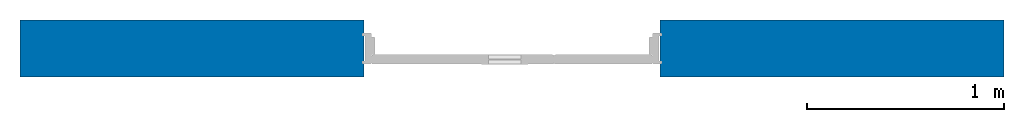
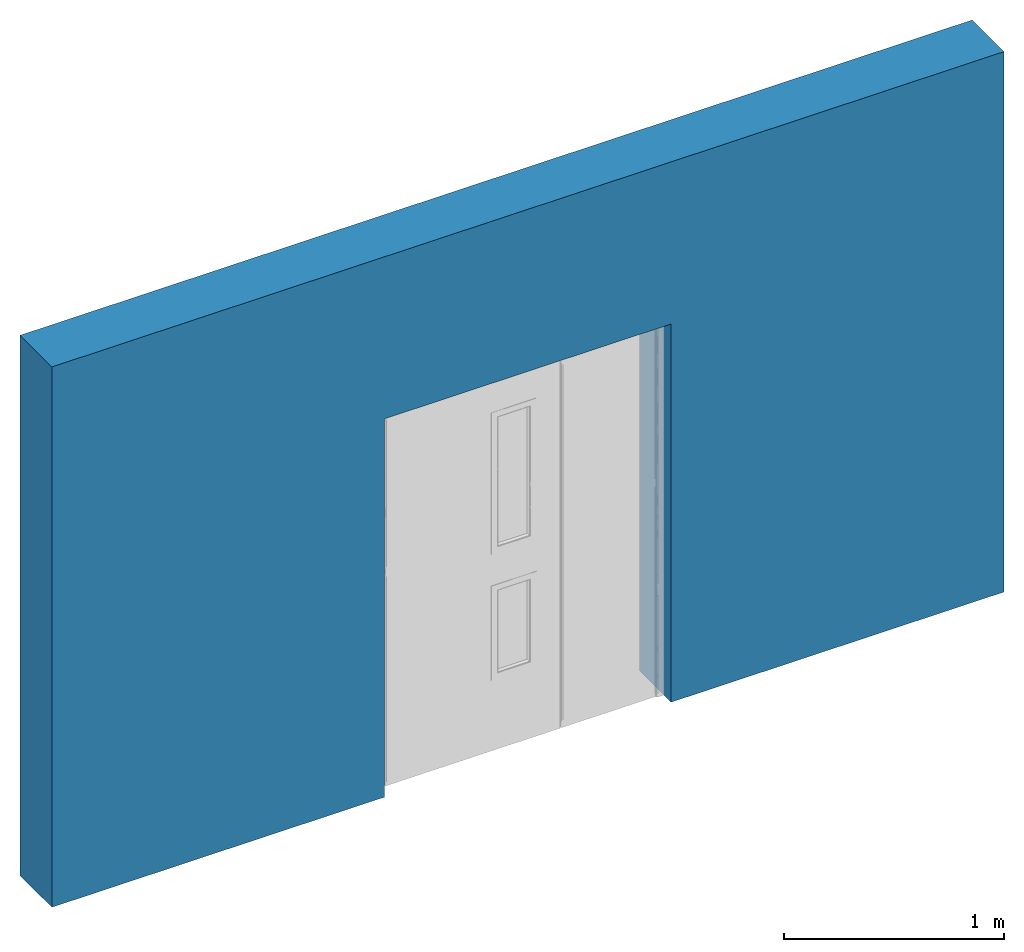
# One storey, incomplete: 1 wall, 1 opening.
"""IFC2X3 building model written with IfcOpenShell, lengths in millimetres."""

import ifcopenshell
import ifcopenshell.guid

model = None  # the IFC model being written
_history = None  # IfcOwnerHistory: only IFC2X3 demands one
_inside = {}  # id of a spatial element -> (the spatial element, [elements in it])
_under = {}  # id of a project, library or spatial element -> (it, [spatial elements below it])
_declared = {}  # id of a project -> (the project, [libraries it declares])
_typed = {}  # id of a type object -> (the type object, [elements of that type])
_made_of = {}  # id of a material, layer set ... -> (it, [elements and type objects made of it])


def new_model(schema):
    """Start an empty IFC model of exactly this schema.

    Asked for "IFC4X3", IfcOpenShell would pick the latest addendum, in which some entities
    have other attributes; the version numbers below select the first issue.
    IFC2X3 requires an IfcOwnerHistory on every rooted entity: one is made here for all.
    """
    global model, _history
    if schema == "IFC4X3":
        model = ifcopenshell.file(schema_version=(4, 3, 0, 0))
    else:
        model = ifcopenshell.file(schema=schema)
    _inside.clear()
    _under.clear()
    _declared.clear()
    _typed.clear()
    _made_of.clear()
    _history = None
    if model.schema == "IFC2X3":
        org = make("IfcOrganization", Name="unknown")
        user = make(
            "IfcPersonAndOrganization",
            ThePerson=make("IfcPerson", FamilyName="unknown"),
            TheOrganization=org,
        )
        app = make(
            "IfcApplication",
            ApplicationDeveloper=org,
            Version="unknown",
            ApplicationFullName="unknown",
            ApplicationIdentifier="unknown",
        )
        _history = make(
            "IfcOwnerHistory",
            OwningUser=user,
            OwningApplication=app,
            ChangeAction="ADDED",
            CreationDate=0,
        )
    return model


def make(cls, **values):
    """One entity of the class cls with the attributes given. An attribute that is None is left unset."""
    return model.create_entity(
        cls, **{name: value for name, value in values.items() if value is not None}
    )


def entity(cls, *values):
    """Any entity or typed value of the class cls, its attributes in the order of the schema. None: left unset."""
    e = model.create_entity(cls)
    for i, value in enumerate(values):
        if value is not None:
            e[i] = value
    return e


def rooted(cls, **values):
    """An entity with a GlobalId (a new one), such as an element, a storey or a relation."""
    return make(cls, GlobalId=ifcopenshell.guid.new(), OwnerHistory=_history, **values)


def si_unit(unit_type, name, prefix=None):
    """IfcSIUnit, for example si_unit("LENGTHUNIT", "METRE", prefix="MILLI")."""
    return make("IfcSIUnit", UnitType=unit_type, Prefix=prefix, Name=name)


def converted_unit(unit_type, name, factor, base, dimensions=None, offset=None):
    """IfcConversionBasedUnit, such as the inch: factor (a typed value) times the base unit."""
    return make(
        "IfcConversionBasedUnit"
        if offset is None
        else "IfcConversionBasedUnitWithOffset",
        ConversionOffset=offset,
        Dimensions=None
        if dimensions is None
        else entity("IfcDimensionalExponents", *dimensions),
        UnitType=unit_type,
        Name=name,
        ConversionFactor=make(
            "IfcMeasureWithUnit", ValueComponent=factor, UnitComponent=base
        ),
    )


def derived_unit(unit_type, elements):
    """IfcDerivedUnit: a product of units, each with its exponent."""
    return make(
        "IfcDerivedUnit",
        Elements=[
            make("IfcDerivedUnitElement", Unit=unit, Exponent=power)
            for unit, power in elements
        ],
        UnitType=unit_type,
    )


def assignment(units):
    """IfcUnitAssignment: the units of a project."""
    return None if units is None else make("IfcUnitAssignment", Units=units)


def point(xyz):
    """IfcCartesianPoint."""
    return None if xyz is None else make("IfcCartesianPoint", Coordinates=xyz)


def direction(xyz):
    """IfcDirection."""
    return None if xyz is None else make("IfcDirection", DirectionRatios=xyz)


def frame(location, z_axis=None, x_axis=None):
    """IfcAxis2Placement3D, a coordinate frame: its origin and axes. An axis left out is left unset."""
    return make(
        "IfcAxis2Placement3D",
        Location=point(location),
        Axis=direction(z_axis),
        RefDirection=direction(x_axis),
    )


def frame_2d(location, x_axis=None):
    """IfcAxis2Placement2D, a coordinate frame in the plane: its origin and x axis."""
    return make(
        "IfcAxis2Placement2D", Location=point(location), RefDirection=direction(x_axis)
    )


def origin():
    """The frame at (0, 0, 0) with its axes left unset."""
    return frame((0.0, 0.0, 0.0))


def place(relative_to, where):
    """IfcLocalPlacement: puts the frame where relative to a parent placement (None: the world)."""
    return make(
        "IfcLocalPlacement", PlacementRelTo=relative_to, RelativePlacement=where
    )


def context(
    kind, dimensions, precision=None, world=None, true_north=None, identifier=None
):
    """IfcGeometricRepresentationContext, for example the 3D "Model" context."""
    return make(
        "IfcGeometricRepresentationContext",
        ContextIdentifier=identifier,
        ContextType=kind,
        CoordinateSpaceDimension=dimensions,
        Precision=precision,
        WorldCoordinateSystem=world,
        TrueNorth=true_north,
    )


def subcontext(parent, identifier, kind, view, scale=None):
    """IfcGeometricRepresentationSubContext, for example "Body" below "Model"."""
    return make(
        "IfcGeometricRepresentationSubContext",
        ContextIdentifier=identifier,
        ContextType=kind,
        ParentContext=parent,
        TargetScale=scale,
        TargetView=view,
    )


def project(units=None, contexts=None):
    """IfcProject with its units and contexts."""
    return rooted(
        "IfcProject",
        Name="project",
        RepresentationContexts=contexts,
        UnitsInContext=assignment(units),
    )


def spatial(cls, under=None, at=None, **own):
    """A site, building, storey or space (cls), placed at a placement, below another one or the project."""
    s = rooted(cls, ObjectPlacement=at, **own)
    if under is not None:
        _under.setdefault(under.id(), (under, []))[1].append(s)
    return s


def profile(cls, at=None, kind="AREA", **sizes):
    """A parametric profile (cls). Its sizes go by their IFC names, for example OverallWidth=200.0."""
    return make(cls, ProfileType=kind, Position=at, **sizes)


def rectangle(**sizes):
    """IfcRectangleProfileDef."""
    return profile("IfcRectangleProfileDef", **sizes)


def extrude(swept, where, along, depth):
    """IfcExtrudedAreaSolid: the profile swept, set in the frame where, extruded along a direction by depth."""
    return make(
        "IfcExtrudedAreaSolid",
        SweptArea=swept,
        Position=where,
        ExtrudedDirection=direction(along),
        Depth=depth,
    )


def shape(context_of_items, identifier, shape_type, items):
    """IfcShapeRepresentation: the items that make up one representation, for example the "Body"."""
    return make(
        "IfcShapeRepresentation",
        ContextOfItems=context_of_items,
        RepresentationIdentifier=identifier,
        RepresentationType=shape_type,
        Items=items,
    )


def material(Name=None, Category=None):
    """IfcMaterial."""
    return make("IfcMaterial", Name=Name, Category=Category)


def layer(
    of_material, thickness, ventilated=None, Name=None, Category=None, Priority=None
):
    """IfcMaterialLayer: one layer of a wall or slab, of a material (None: an air gap)."""
    return make(
        "IfcMaterialLayer",
        Material=of_material,
        LayerThickness=thickness,
        IsVentilated=ventilated,
        Name=Name,
        Category=Category,
        Priority=Priority,
    )


def layer_set(layers, Name=None):
    """IfcMaterialLayerSet."""
    return make("IfcMaterialLayerSet", MaterialLayers=layers, LayerSetName=Name)


def layer_usage(for_layer_set, set_direction, sense, offset, extent=None):
    """IfcMaterialLayerSetUsage: how a layer set lies in its element."""
    return make(
        "IfcMaterialLayerSetUsage",
        ForLayerSet=for_layer_set,
        LayerSetDirection=set_direction,
        DirectionSense=sense,
        OffsetFromReferenceLine=offset,
        ReferenceExtent=extent,
    )


def made_of(thing, what):
    """Note that an element or type object is made of a material, layer set ...; save() writes the relation."""
    if what is not None:
        _made_of.setdefault(what.id(), (what, []))[1].append(thing)
    return thing


def type_object(cls, material=None, **own):
    """A type object (cls), such as IfcWallType, which elements share."""
    return made_of(rooted(cls, **own), material)


def element(
    cls,
    number,
    at=None,
    inside=None,
    cuts=None,
    type_object=None,
    material=None,
    context=None,
    identifier="Body",
    shape_type=None,
    held_by="IfcProductDefinitionShape",
    body=None,
    shapes=None,
    **own,
):
    """One element of the class cls, such as IfcWall. Its Tag is "e" and its number.

    at: its placement. inside: the storey or other place that contains it. cuts: it is an
    opening in that element (IfcRelVoidsElement). A single representation is given by context,
    identifier, shape_type and body (its items); several are given by shapes. held_by: the class
    of the entity that holds the representations. save() writes the other relations.
    """
    e = rooted(cls, Tag="e%d" % number, ObjectPlacement=at, **own)
    if body is not None:
        shapes = [shape(context, identifier, shape_type, body)]
    if shapes is not None:
        e.Representation = make(held_by, Representations=shapes)
    if inside is not None:
        _inside.setdefault(inside.id(), (inside, []))[1].append(e)
    if cuts is not None:
        rooted(
            "IfcRelVoidsElement", RelatingBuildingElement=cuts, RelatedOpeningElement=e
        )
    if type_object is not None:
        _typed.setdefault(type_object.id(), (type_object, []))[1].append(e)
    return made_of(e, material)


def aggregate(whole, parts):
    """IfcRelAggregates: a whole, such as a stair, and the parts it consists of."""
    return rooted("IfcRelAggregates", RelatingObject=whole, RelatedObjects=parts)


def save(model, path):
    """Write the relations noted so far, then the file.

    IfcRelAggregates (storeys below a building ...), IfcRelContainedInSpatialStructure (elements
    in a storey), IfcRelDefinesByType, IfcRelAssociatesMaterial and IfcRelDeclares: one each for
    every whole, place, type object, material and project.
    """
    for whole, parts in _under.values():
        aggregate(whole, parts)
    for where, things in _inside.values():
        rooted(
            "IfcRelContainedInSpatialStructure",
            RelatedElements=things,
            RelatingStructure=where,
        )
    for kind, things in _typed.values():
        rooted("IfcRelDefinesByType", RelatedObjects=things, RelatingType=kind)
    for what, things in _made_of.values():
        rooted("IfcRelAssociatesMaterial", RelatedObjects=things, RelatingMaterial=what)
    for by, libraries in _declared.values():
        rooted("IfcRelDeclares", RelatingContext=by, RelatedDefinitions=libraries)
    model.write(path)


model = new_model("IFC2X3")

# Units and contexts
model_context = context("Model", 3, precision=0.01, world=origin(), true_north=direction((6.12303176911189e-17, 1.0)))
body_context = subcontext(model_context, "Body", "Model", "MODEL_VIEW")
ifc_project = project(units=[si_unit("LENGTHUNIT", "METRE", prefix="MILLI"), si_unit("AREAUNIT", "SQUARE_METRE"), si_unit("VOLUMEUNIT", "CUBIC_METRE"), converted_unit("PLANEANGLEUNIT", "DEGREE", entity("IfcRatioMeasure", 0.0174532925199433), si_unit("PLANEANGLEUNIT", "RADIAN"), dimensions=[0, 0, 0, 0, 0, 0, 0]), si_unit("MASSUNIT", "GRAM", prefix="KILO"), si_unit("TIMEUNIT", "SECOND"), si_unit("FREQUENCYUNIT", "HERTZ"), si_unit("THERMODYNAMICTEMPERATUREUNIT", "DEGREE_CELSIUS"), derived_unit("THERMALTRANSMITTANCEUNIT", [(si_unit("MASSUNIT", "GRAM", prefix="KILO"), 1), (si_unit("THERMODYNAMICTEMPERATUREUNIT", "KELVIN"), -1), (si_unit("TIMEUNIT", "SECOND"), -3)]), derived_unit("VOLUMETRICFLOWRATEUNIT", [(si_unit("LENGTHUNIT", "METRE"), 3), (si_unit("TIMEUNIT", "SECOND"), -1)]), si_unit("ELECTRICCURRENTUNIT", "AMPERE"), si_unit("ELECTRICVOLTAGEUNIT", "VOLT"), si_unit("POWERUNIT", "WATT"), si_unit("FORCEUNIT", "NEWTON", prefix="KILO"), si_unit("ILLUMINANCEUNIT", "LUX"), si_unit("LUMINOUSFLUXUNIT", "LUMEN"), si_unit("LUMINOUSINTENSITYUNIT", "CANDELA"), si_unit("PRESSUREUNIT", "PASCAL")], contexts=[model_context])

# Site, building, storey
site_placement = place(None, origin())
site = spatial("IfcSite", under=ifc_project, at=site_placement, Name="Default", CompositionType="ELEMENT")
building_placement = place(site_placement, origin())
building = spatial("IfcBuilding", under=site, at=building_placement, CompositionType="ELEMENT")
storey_placement = place(building_placement, origin())
storey = spatial("IfcBuildingStorey", under=building, at=storey_placement, Name="Level 0", CompositionType="ELEMENT", Elevation=0.0)

# Wall, opening
ifc_material_1 = material(Name="Brick, Common")
ifc_layer_1 = layer(ifc_material_1, 102.5)
ifc_material_2 = material(Name="Fiberglass Batt")
ifc_layer_2 = layer(ifc_material_2, 75.0)
ifc_material_3 = material(Name="Concrete Masonry Units")
ifc_layer_3 = layer(ifc_material_3, 100.0)
ifc_material_4 = material(Name="Gypsum Wall Board")
ifc_layer_4 = layer(ifc_material_4, 12.5)
ifc_layer_set = layer_set([ifc_layer_1, ifc_layer_2, ifc_layer_3, ifc_layer_4], Name="Basic Wall:Cav - 102 75i 100 p - Lwt")
ifc_layer_usage = layer_usage(ifc_layer_set, "AXIS2", "POSITIVE", -145.0)
wall_type = type_object("IfcWallType", Name="Basic Wall:Cav - 102 75i 100 p - Lwt", PredefinedType="STANDARD", material=ifc_layer_set)
wall_placement = place(storey_placement, frame((-2504.9500028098, -2.69454281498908, 0.0)))
wall = element("IfcWallStandardCase", 1, at=wall_placement, inside=storey, type_object=wall_type, material=ifc_layer_usage, Name="Basic Wall:Cav - 102 75i 100 p - Lwt", ObjectType="Basic Wall:Cav - 102 75i 100 p - Lwt", context=body_context, shape_type="SweptSolid", body=[
    extrude(rectangle(XDim=5000.0, YDim=290.0, at=frame_2d((2500.0, 0.0), x_axis=(-1.0, 0.0))), origin(), (0.0, 0.0, 1.0), 3000.0),
])
opening_placement = place(wall_placement, frame((2504.9500028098, 2.69454281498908, 0.0)))
element("IfcOpeningElement", 2, at=opening_placement, cuts=wall, Name="Basic Wall:Cav - 102 75i 100 p - Lwt", ObjectType="Opening", context=body_context, shape_type="SweptSolid", body=[
    extrude(rectangle(XDim=2099.99999999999, YDim=1503.99999999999, at=frame_2d((0.0, 0.0), x_axis=(0.0, 1.0))), frame((-4.95000280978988, -152.694542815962, 1050.0), z_axis=(0.0, 1.0, 0.0), x_axis=(1.0, 0.0, 0.0)), (0.0, 0.0, 1.0), 300.000000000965),
])

save(model, "model.ifc")
